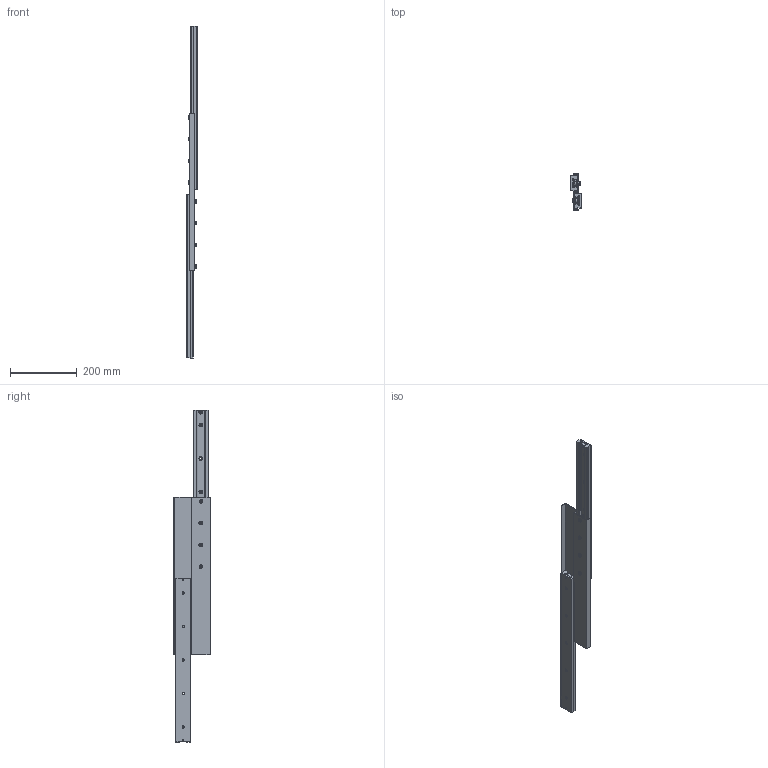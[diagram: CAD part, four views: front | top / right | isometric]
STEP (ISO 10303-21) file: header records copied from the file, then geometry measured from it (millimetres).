
FILE_DESCRIPTION (( 'STEP AP214' ), '1' );
FILE_NAME ('LSIM45DVL.STEP', '2021-06-13T23:46:02', ( '' ), ( '' ), 'SwSTEP 2.0', 'SolidWorks 2019', '' );
FILE_SCHEMA (( 'AUTOMOTIVE_DESIGN' ));
Length unit declared in the file: millimetre
Products named in the file (4): LSIM45DVLレール; LSIM45DVL; LSIM45ストッパー; LSIM45DVLリテーナ
Assembly tree (7 placements, depth 2):
  LSIM45DVL
    LSIM45DVLレール  x2
    LSIM45DVLリテーナ
    LSIM45ストッパー  x4
Bounding box: 30.2 x 108.2 x 992 mm (x, y, z)
Volume: 737327.8 mm3; surface area: 320120.2 mm2
Topology: 7 solids, 7 shells, 442 faces, 958 edges, 604 vertices
Faces by surface type: plane 210, cylinder 120, cone 104, torus 8
Full cylindrical faces by diameter (mm): 3.3 x4, 4 x4, 5 x4, 6 x8, 6.6 x10, 8 x4, 10.5 x8, 10.6 x16, 11 x10, 12 x4, 20 x16
Entity records: 9307 total; most frequent: CARTESIAN_POINT 2311, DIRECTION 1403, ORIENTED_EDGE 1262, EDGE_CURVE 631, AXIS2_PLACEMENT_3D 614, EDGE_LOOP 491, VERTEX_POINT 434, FACE_OUTER_BOUND 412
